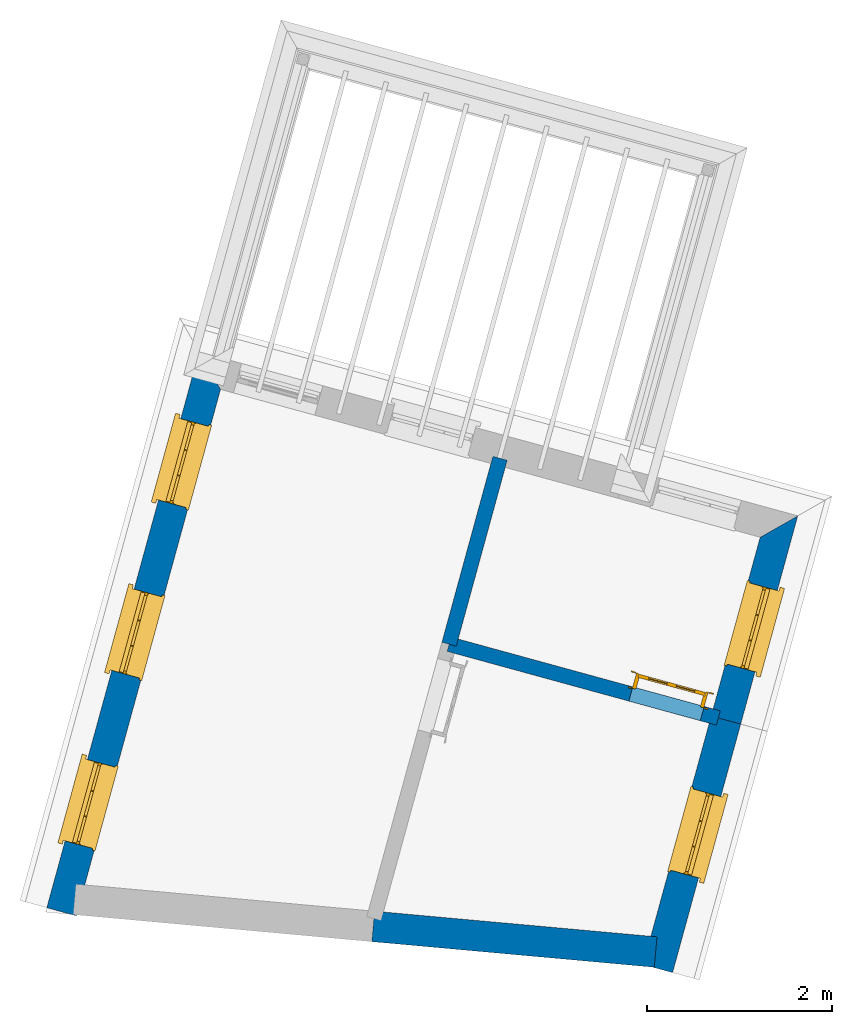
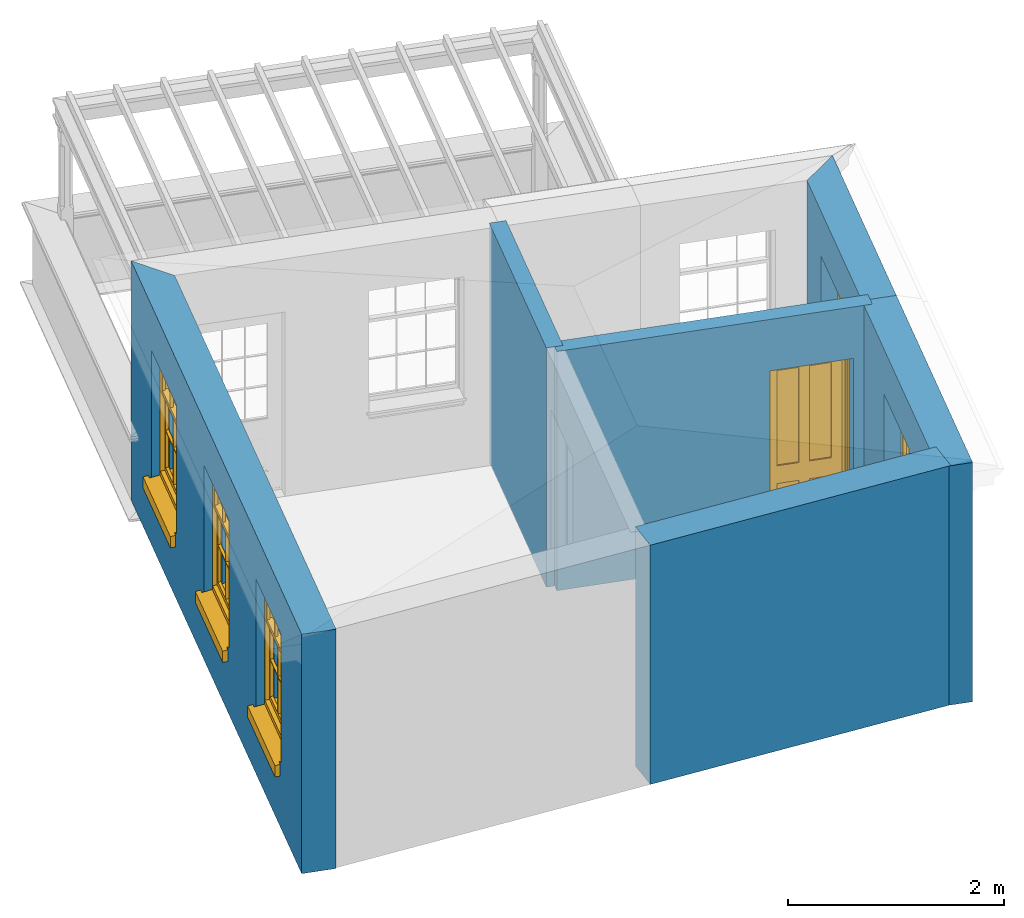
# One storey, part 2 of 4: 6 walls, 5 windows, 1 door, 6 openings.
"""IFC4 building model written with IfcOpenShell, lengths in metres."""

from ifc_helpers import new_model, si_unit, frame, origin, origin_with_axes, place, context, subcontext, project, spatial, polyline, outline, extrude, faceted_brep, source, transform, mapped, material, layer, layer_set, layer_usage, type_object, type_shapes, element, fill, save


model = new_model("IFC4")

# Units and contexts
model_context = context("Model", 3, world=origin_with_axes())
body_context = subcontext(model_context, "Body", "Model", "MODEL_VIEW")
ifc_project = project(units=[si_unit("PLANEANGLEUNIT", "RADIAN"), si_unit("MASSUNIT", "GRAM", prefix="KILO"), si_unit("FORCEUNIT", "NEWTON", prefix="KILO"), si_unit("LENGTHUNIT", "METRE"), si_unit("AREAUNIT", "SQUARE_METRE"), si_unit("VOLUMEUNIT", "CUBIC_METRE")], contexts=[model_context, model_context])

# Sites, building, storey
site_1_placement = place(None, origin_with_axes())
site_1 = spatial("IfcSite", under=ifc_project, at=site_1_placement, Name="Tamar")
site_2_placement = place(site_1_placement, origin_with_axes())
site_2 = spatial("IfcSite", under=site_1, at=site_2_placement, Name="Site plot-28", CompositionType="ELEMENT")
building_placement = place(None, origin_with_axes())
building = spatial("IfcBuilding", under=site_2, at=building_placement, Name="Building plot-28", CompositionType="ELEMENT")
storey_placement = place(None, frame((0.0, 0.0, 29.85), z_axis=(0.0, 0.0, 1.0), x_axis=(1.0, 0.0, 0.0)))
storey = spatial("IfcBuildingStorey", under=building, at=storey_placement, Name="plot-28 2", CompositionType="ELEMENT", Elevation=29.85)

# Wall, opening, window
ifc_material_1 = material(Name="Masonry")
ifc_layer_1 = layer(ifc_material_1, 0.33, ventilated=False)
ifc_layer_set_1 = layer_set([ifc_layer_1], Name="exterior_0.08_0.25")
ifc_layer_usage_1 = layer_usage(ifc_layer_set_1, "AXIS2", "POSITIVE", -0.25)
wall_type_1 = type_object("IfcWallType", Name="exterior_0.08_0.25", PredefinedType="SOLIDWALL", material=ifc_layer_set_1)
wall_1_placement = place(storey_placement, frame((265.361027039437, 259.109868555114, 0.0), z_axis=(0.0, 0.0, 1.0), x_axis=(0.264255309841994, 0.964452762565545, 0.0)))
wall_1 = element("IfcWall", 1, at=wall_1_placement, inside=storey, type_object=wall_type_1, material=ifc_layer_usage_1, Name="exterior", context=body_context, shape_type="SweptSolid", body=[
    extrude(outline(polyline([(-0.250000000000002, 0.0799999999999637), (-0.24999999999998, -0.250000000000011), (2.53220610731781, -0.249999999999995), (2.53220610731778, 0.0799999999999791), (-0.250000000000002, 0.0799999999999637)])), origin_with_axes(), (0.0, 0.0, 1.0), 2.7),
])
opening_1_placement = place(wall_1_placement, frame((0.811103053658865, 0.0, 0.75)))
opening_1 = element("IfcOpeningElement", 2, at=opening_1_placement, cuts=wall_1, Name="My Opening", ObjectType="Opening", context=body_context, shape_type="SweptSolid", body=[
    extrude(outline(polyline([(0.0, -0.270000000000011), (0.910000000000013, -0.269999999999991), (0.910000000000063, 1.09999999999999), (4.91828799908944e-14, 1.09999999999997), (0.0, -0.270000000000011)])), origin_with_axes(), (0.0, 0.0, 1.0), 1.445),
])
window_type = type_object("IfcWindowType", Name="sash_shorter", PartitioningType="DOUBLE_PANEL_HORIZONTAL", PredefinedType="NOTDEFINED")
shared_shape_1 = source(origin(), body_context, "Body", "Brep", [
    faceted_brep([(0.876875, 0.145, 0.999097), (0.876875, 0.145, 1.411875), (0.9, 0.145, 1.435), (0.033125, 0.145, 1.411875), (0.033125, 0.145, 0.999097), (0.01, 0.145, 1.435), (0.033125, 0.115, 1.411875), (0.01, 0.115, 1.435), (0.033125, 0.115, 0.999097), (0.876875, 0.115, 1.411875), (0.876875, 0.115, 0.999097), (0.9, 0.115, 1.435), (0.033125, 0.145, 0.960972), (0.01, 0.145, 0.960972), (0.033125, 0.145, 0.548195), (0.876875, 0.145, 0.960972), (0.876875, 0.145, 0.548195), (0.9, 0.145, 0.960972), (0.876875, 0.145, 0.538195), (0.876875, 0.145, 0.125417), (0.9, 0.145, 0.077167), (0.033125, 0.145, 0.125417), (0.033125, 0.145, 0.538195), (0.01, 0.145, 0.077167), (0.9, 0.115, 0.960972), (0.01, 0.115, 0.960972), (-0.0425, 0.0, 0.01), (-0.0425, -0.05, 0.001667), (0.0, 0.0, 0.01), (0.9525, 0.0, 0.01), (0.91, 0.0, 0.01), (0.9525, -0.05, 0.001667), (-0.02, 0.33, 0.077167), (0.0, 0.33, 0.077167), (-0.02, 0.36, 0.077167), (0.0, 0.19, 0.077167), (0.01, 0.19, 0.077167), (0.91, 0.19, 0.077167), (0.91, 0.33, 0.077167), (0.9, 0.19, 0.077167), (0.93, 0.33, 0.077167), (0.93, 0.36, 0.077167), (0.01, 0.145, 0.999097), (0.01, 0.175, 0.999097), (0.9, 0.145, 0.999097), (0.9, 0.175, 0.999097), (0.876875, 0.175, 0.125417), (0.876875, 0.175, 0.538195), (0.9, 0.175, 0.077167), (0.876875, 0.175, 0.548195), (0.876875, 0.175, 0.960972), (0.033125, 0.175, 0.125417), (0.01, 0.175, 0.077167), (0.033125, 0.175, 0.538195), (0.033125, 0.175, 0.960972), (0.033125, 0.175, 0.548195), (-0.02, 0.33, 0.052167), (-0.02, 0.36, 0.052167), (0.93, 0.36, 0.052167), (0.93, 0.33, 0.052167), (0.91, 0.33, 0.052167), (0.0, 0.33, 0.052167), (0.91, 0.1, 0.026667), (0.0, 0.1, 0.026667), (-0.0425, -0.05, -0.123333), (0.9525, -0.05, -0.123333), (-0.0425, 0.0, -0.123333), (0.9525, 0.0, -0.123333), (0.01, 0.19, 1.435), (0.9, 0.19, 1.435), (0.0, 0.19, 1.445), (0.91, 0.19, 1.445), (0.01, 0.1, 0.077167), (0.9, 0.1, 0.077167), (0.592292, 0.145, 0.125417), (0.592292, 0.175, 0.125417), (0.317708, 0.175, 0.125417), (0.317708, 0.145, 0.125417), (0.592292, 0.145, 0.548195), (0.317708, 0.145, 0.548195), (0.317708, 0.145, 0.538195), (0.592292, 0.145, 0.538195), (0.592292, 0.175, 0.548195), (0.317708, 0.175, 0.548195), (0.602292, 0.175, 0.548195), (0.602292, 0.145, 0.548195), (0.317708, 0.175, 0.538195), (0.307708, 0.175, 0.125417), (0.307708, 0.175, 0.538195), (0.602292, 0.175, 0.538195), (0.602292, 0.175, 0.125417), (0.592292, 0.175, 0.538195), (0.307708, 0.175, 0.548195), (0.317708, 0.175, 0.960972), (0.307708, 0.175, 0.960972), (0.602292, 0.175, 0.960972), (0.592292, 0.175, 0.960972), (0.307708, 0.145, 0.538195), (0.307708, 0.145, 0.125417), (0.307708, 0.145, 0.548195), (0.307708, 0.145, 0.960972), (0.592292, 0.145, 0.960972), (0.317708, 0.145, 0.960972), (0.602292, 0.145, 0.960972), (0.602292, 0.145, 0.538195), (0.602292, 0.145, 0.125417), (0.317708, 0.115, 1.411875), (0.307708, 0.115, 1.411875), (0.307708, 0.115, 0.999097), (0.317708, 0.115, 0.999097), (0.602292, 0.115, 1.411875), (0.592292, 0.115, 1.411875), (0.592292, 0.115, 0.999097), (0.602292, 0.115, 0.999097), (0.317708, 0.145, 0.999097), (0.307708, 0.145, 0.999097), (0.307708, 0.145, 1.411875), (0.317708, 0.145, 1.411875), (0.602292, 0.145, 0.999097), (0.592292, 0.145, 0.999097), (0.592292, 0.145, 1.411875), (0.602292, 0.145, 1.411875), (0.91, 0.1, 1.445), (0.9, 0.1, 1.435), (0.01, 0.1, 1.435), (0.0, 0.1, 1.445), (0.91, 0.0, 0.0), (0.0, 0.0, 0.0), (0.91, 0.33, 0.0), (0.0, 0.33, 0.0)], [[[0, 1, 2]], [[3, 4, 5]], [[6, 7, 8]], [[9, 10, 11]], [[12, 13, 14]], [[15, 16, 17]], [[18, 19, 20]], [[21, 22, 23]], [[24, 15, 17]], [[13, 12, 25]], [[26, 27, 28]], [[29, 30, 31]], [[32, 33, 34]], [[35, 36, 33]], [[37, 38, 39]], [[40, 41, 38]], [[42, 4, 43]], [[44, 45, 0]], [[46, 47, 48]], [[49, 50, 45]], [[51, 52, 53]], [[54, 55, 43]], [[38, 33, 36, 39]], [[41, 34, 33, 38]], [[56, 32, 34, 57]], [[57, 34, 41, 58]], [[58, 41, 40, 59]], [[57, 58, 60, 61]], [[52, 48, 39, 36]], [[62, 63, 28, 30]], [[27, 31, 30, 28]], [[27, 64, 65, 31]], [[66, 67, 65, 64]], [[2, 5, 68, 69]], [[68, 70, 71, 69]], [[20, 23, 72, 73]], [[73, 72, 63, 62]], [[74, 75, 76, 77]], [[78, 79, 80, 81]], [[78, 82, 83, 79]], [[16, 49, 84, 85]], [[86, 76, 87, 88]], [[89, 90, 75, 91]], [[92, 88, 53, 55]], [[82, 91, 86, 83]], [[93, 83, 92, 94]], [[95, 84, 82, 96]], [[89, 84, 49, 47]], [[97, 88, 87, 98]], [[22, 53, 88, 97]], [[81, 91, 75, 74]], [[80, 86, 91, 81]], [[77, 76, 86, 80]], [[99, 92, 55, 14]], [[100, 94, 92, 99]], [[101, 96, 82, 78]], [[79, 83, 93, 102]], [[85, 84, 95, 103]], [[104, 89, 47, 18]], [[105, 90, 89, 104]], [[104, 18, 16, 85]], [[80, 97, 98, 77]], [[104, 81, 74, 105]], [[103, 101, 78, 85]], [[99, 14, 22, 97]], [[102, 100, 99, 79]], [[106, 107, 108, 109]], [[110, 111, 112, 113]], [[114, 115, 116, 117]], [[118, 119, 120, 121]], [[107, 116, 115, 108]], [[111, 120, 119, 112]], [[109, 114, 117, 106]], [[113, 118, 121, 110]], [[85, 78, 81, 104]], [[84, 89, 91, 82]], [[83, 86, 88, 92]], [[79, 99, 97, 80]], [[109, 112, 119, 114]], [[102, 93, 96, 101]], [[106, 117, 120, 111]], [[98, 87, 51, 21]], [[6, 3, 116, 107]], [[110, 121, 1, 9]], [[19, 46, 90, 105]], [[26, 66, 64, 27]], [[29, 31, 65, 67]], [[25, 24, 112, 109]], [[11, 7, 106, 111]], [[75, 48, 52, 76]], [[43, 45, 96, 93]], [[45, 43, 114, 119]], [[5, 2, 120, 117]], [[24, 25, 102, 101]], [[42, 5, 4]], [[2, 44, 0]], [[49, 45, 48, 47]], [[52, 43, 55, 53]], [[14, 13, 23, 22]], [[20, 17, 16, 18]], [[24, 11, 10]], [[25, 8, 7]], [[8, 4, 3, 6]], [[9, 1, 0, 10]], [[15, 50, 49, 16]], [[18, 47, 46, 19]], [[21, 51, 53, 22]], [[14, 55, 54, 12]], [[44, 2, 69, 45]], [[68, 5, 42, 43]], [[36, 35, 70, 68]], [[39, 69, 71, 37]], [[62, 122, 123, 73]], [[63, 72, 124, 125]], [[8, 108, 115, 4]], [[113, 10, 0, 118]], [[94, 100, 12, 54]], [[17, 20, 73, 24]], [[72, 23, 13, 25]], [[52, 36, 68, 43]], [[69, 39, 48, 45]], [[11, 24, 73, 123]], [[7, 124, 72, 25]], [[23, 77, 98]], [[98, 21, 23]], [[105, 74, 20]], [[20, 19, 105]], [[20, 74, 77, 23]], [[113, 112, 24]], [[24, 10, 113]], [[25, 109, 108]], [[108, 8, 25]], [[110, 9, 11]], [[11, 111, 110]], [[7, 6, 107]], [[107, 106, 7]], [[5, 117, 116]], [[116, 3, 5]], [[121, 120, 2]], [[2, 1, 121]], [[11, 123, 124, 7]], [[122, 125, 124, 123]], [[43, 93, 94]], [[94, 54, 43]], [[96, 45, 95]], [[50, 95, 45]], [[15, 103, 95, 50]], [[48, 75, 90]], [[90, 46, 48]], [[87, 76, 52]], [[52, 51, 87]], [[103, 15, 24]], [[24, 101, 103]], [[100, 102, 25]], [[25, 12, 100]], [[115, 114, 43]], [[43, 4, 115]], [[118, 0, 45]], [[45, 119, 118]], [[71, 70, 125, 122]], [[70, 35, 63, 125]], [[122, 62, 37, 71]], [[126, 67, 66, 127]], [[60, 58, 59]], [[38, 60, 59, 40]], [[61, 56, 57]], [[32, 56, 61, 33]], [[61, 60, 128, 129]], [[62, 60, 38, 37]], [[126, 128, 60, 62]], [[33, 61, 63, 35]], [[61, 129, 127, 63]], [[128, 126, 127, 129]], [[28, 127, 66, 26]], [[63, 127, 28]], [[29, 67, 126, 30]], [[30, 126, 62]]]),
])
type_shapes(window_type, [shared_shape_1])
window_1_placement = place(storey_placement, frame((265.835767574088, 259.820790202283, 0.75), z_axis=(0.0, 0.0, 1.0), x_axis=(0.240472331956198, 0.877652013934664, 0.0)))
window_1 = element("IfcWindow", 3, at=window_1_placement, inside=storey, type_object=window_type, Name="circulation outside window", OverallHeight=1.445, OverallWidth=0.91, context=body_context, shape_type="MappedRepresentation", body=[
    mapped(shared_shape_1, transform((0.0, 0.0, 0.0), scale=1.0)),
])
fill(opening_1, window_1)

wall_2_placement = place(storey_placement, frame((266.03017594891, 261.552061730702, 0.0), z_axis=(0.0, 0.0, 1.0), x_axis=(0.26425530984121, 0.96445276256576, 0.0)))
wall_2 = element("IfcWall", 4, at=wall_2_placement, inside=storey, type_object=wall_type_1, material=ifc_layer_usage_1, Name="exterior", context=body_context, shape_type="SweptSolid", body=[
    extrude(outline(polyline([(5.82694029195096e-14, 0.0799999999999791), (-1.87556871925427e-13, -0.249999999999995), (2.33108839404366, -0.250000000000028), (2.00108839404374, 0.0800000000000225), (5.82694029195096e-14, 0.0799999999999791)])), origin_with_axes(), (0.0, 0.0, 1.0), 2.7),
])
opening_2_placement = place(wall_2_placement, frame((0.58554419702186, 0.0, 0.75)))
opening_2 = element("IfcOpeningElement", 5, at=opening_2_placement, cuts=wall_2, Name="My Opening", ObjectType="Opening", context=body_context, shape_type="SweptSolid", body=[
    extrude(outline(polyline([(0.0, -0.270000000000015), (0.909999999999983, -0.269999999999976), (0.909999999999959, 1.10000000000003), (-2.37587727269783e-14, 1.09999999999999), (0.0, -0.270000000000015)])), origin_with_axes(), (0.0, 0.0, 1.0), 1.445),
])
window_2_placement = place(storey_placement, frame((266.445311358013, 262.045442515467, 0.75), z_axis=(0.0, 0.0, 1.0), x_axis=(0.240472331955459, 0.877652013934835, 0.0)))
window_2 = element("IfcWindow", 6, at=window_2_placement, inside=storey, type_object=window_type, Name="toilet outside window", OverallHeight=1.445, OverallWidth=0.91, context=body_context, shape_type="MappedRepresentation", body=[
    mapped(shared_shape_1, transform((0.0, 0.0, 0.0), scale=1.0)),
])
fill(opening_2, window_2)

# Wall, openings, windows
wall_3_placement = place(storey_placement, frame((260.599846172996, 265.197737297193, 0.0), z_axis=(0.0, 0.0, 1.0), x_axis=(-0.264255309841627, -0.964452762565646, 0.0)))
wall_3 = element("IfcWall", 7, at=wall_3_placement, inside=storey, type_object=wall_type_1, material=ifc_layer_usage_1, Name="exterior", context=body_context, shape_type="SweptSolid", body=[
    extrude(outline(polyline([(0.0800000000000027, 0.0799999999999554), (-0.250000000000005, -0.249999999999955), (5.97279719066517, -0.250000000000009), (5.97279719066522, 0.0799999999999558), (0.0800000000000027, 0.0799999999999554)])), origin_with_axes(), (0.0, 0.0, 1.0), 2.7),
])
opening_3_placement = place(wall_3_placement, frame((0.498799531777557, 0.0, 0.75)))
opening_3 = element("IfcOpeningElement", 8, at=opening_3_placement, cuts=wall_3, Name="My Opening", ObjectType="Opening", context=body_context, shape_type="SweptSolid", body=[
    extrude(outline(polyline([(0.0, -0.270000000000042), (0.909999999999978, -0.270000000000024), (0.909999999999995, 1.10000000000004), (1.62092561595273e-14, 1.10000000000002), (0.0, -0.270000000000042)])), origin_with_axes(), (0.0, 0.0, 1.0), 1.445),
])
opening_4_placement = place(wall_3_placement, frame((2.40639859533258, 0.0, 0.75)))
opening_4 = element("IfcOpeningElement", 9, at=opening_4_placement, cuts=wall_3, Name="My Opening", ObjectType="Opening", context=body_context, shape_type="SweptSolid", body=[
    extrude(outline(polyline([(0.0, -0.270000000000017), (0.910000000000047, -0.270000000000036), (0.910000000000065, 1.10000000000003), (1.59872115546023e-14, 1.10000000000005), (0.0, -0.270000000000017)])), origin_with_axes(), (0.0, 0.0, 1.0), 1.445),
])
opening_5_placement = place(wall_3_placement, frame((4.31399765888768, 0.0, 0.75)))
opening_5 = element("IfcOpeningElement", 10, at=opening_5_placement, cuts=wall_3, Name="My Opening", ObjectType="Opening", context=body_context, shape_type="SweptSolid", body=[
    extrude(outline(polyline([(0.0, -0.270000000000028), (0.909999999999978, -0.270000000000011), (0.909999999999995, 1.10000000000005), (1.68753899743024e-14, 1.10000000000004), (0.0, -0.270000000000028)])), origin_with_axes(), (0.0, 0.0, 1.0), 1.445),
])
window_3_placement = place(storey_placement, frame((260.207633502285, 264.788017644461, 0.75), z_axis=(0.0, 0.0, 1.0), x_axis=(-0.240472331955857, -0.877652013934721, 0.0)))
window_3 = element("IfcWindow", 11, at=window_3_placement, inside=storey, type_object=window_type, Name="bedroom outside window", OverallHeight=1.445, OverallWidth=0.91, context=body_context, shape_type="MappedRepresentation", body=[
    mapped(shared_shape_1, transform((0.0, 0.0, 0.0), scale=1.0)),
])
fill(opening_3, window_3)
window_4_placement = place(storey_placement, frame((259.703540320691, 262.948228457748, 0.75), z_axis=(0.0, 0.0, 1.0), x_axis=(-0.240472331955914, -0.877652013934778, 0.0)))
window_4 = element("IfcWindow", 12, at=window_4_placement, inside=storey, type_object=window_type, Name="bedroom outside window", OverallHeight=1.445, OverallWidth=0.91, context=body_context, shape_type="MappedRepresentation", body=[
    mapped(shared_shape_1, transform((0.0, 0.0, 0.0), scale=1.0)),
])
fill(opening_4, window_4)
window_5_placement = place(storey_placement, frame((259.199447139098, 261.108439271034, 0.75), z_axis=(0.0, 0.0, 1.0), x_axis=(-0.240472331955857, -0.877652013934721, 0.0)))
window_5 = element("IfcWindow", 13, at=window_5_placement, inside=storey, type_object=window_type, Name="bedroom outside window", OverallHeight=1.445, OverallWidth=0.91, context=body_context, shape_type="MappedRepresentation", body=[
    mapped(shared_shape_1, transform((0.0, 0.0, 0.0), scale=1.0)),
])
fill(opening_5, window_5)

# Walls
ifc_material_2 = material(Name="Masonry")
ifc_layer_2 = layer(ifc_material_2, 0.33, ventilated=False)
ifc_layer_set_2 = layer_set([ifc_layer_2], Name="party_0.08_0.25")
ifc_layer_usage_2 = layer_usage(ifc_layer_set_2, "AXIS2", "POSITIVE", -0.25)
wall_type_2 = type_object("IfcWallType", Name="party_0.08_0.25", PredefinedType="SOLIDWALL", material=ifc_layer_set_2)
wall_4_placement = place(storey_placement, frame((262.311682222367, 259.386200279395, 0.0), z_axis=(0.0, 0.0, 1.0), x_axis=(0.995919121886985, -0.0902502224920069, 0.0)))
element("IfcWall", 14, at=wall_4_placement, inside=storey, type_object=wall_type_2, material=ifc_layer_usage_2, Name="party", context=body_context, shape_type="SweptSolid", body=[
    extrude(outline(polyline([(3.79656442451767e-14, 0.0799999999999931), (-9.35267029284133e-14, -0.250000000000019), (3.06183981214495, -0.250000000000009), (3.06183981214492, 0.079999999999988), (3.79656442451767e-14, 0.0799999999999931)])), origin_with_axes(), (0.0, 0.0, 1.0), 2.7),
])
ifc_material_3 = material(Name="Masonry")
ifc_layer_3 = layer(ifc_material_3, 0.16, ventilated=False)
ifc_layer_set_3 = layer_set([ifc_layer_3], Name="interior_0.08_0.08")
ifc_layer_usage_3 = layer_usage(ifc_layer_set_3, "AXIS2", "POSITIVE", -0.08)
wall_type_3 = type_object("IfcWallType", Name="interior_0.08_0.08", PredefinedType="SOLIDWALL", material=ifc_layer_set_3)
wall_5_placement = place(storey_placement, frame((263.123343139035, 262.348519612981, 0.0), z_axis=(0.0, 0.0, 1.0), x_axis=(0.264255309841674, 0.964452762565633, 0.0)))
element("IfcWall", 15, at=wall_5_placement, inside=storey, type_object=wall_type_3, material=ifc_layer_usage_3, Name="interior", context=body_context, shape_type="SweptSolid", body=[
    extrude(outline(polyline([(1.97579866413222e-14, 0.0799999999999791), (-1.9748189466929e-14, -0.0799999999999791), (2.08108839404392, -0.0799999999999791), (2.08108839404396, 0.0799999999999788), (1.97579866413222e-14, 0.0799999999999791)])), origin_with_axes(), (0.0, 0.0, 1.0), 2.7),
])

# Wall, opening, door
wall_6_placement = place(storey_placement, frame((263.123343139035, 262.348519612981, 0.0), z_axis=(0.0, 0.0, 1.0), x_axis=(0.964452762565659, -0.264255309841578, 0.0)))
wall_6 = element("IfcWall", 16, at=wall_6_placement, inside=storey, type_object=wall_type_3, material=ifc_layer_usage_3, Name="interior", context=body_context, shape_type="SweptSolid", body=[
    extrude(outline(polyline([(2.77338288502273e-14, 0.0799999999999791), (-2.77258624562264e-14, -0.0799999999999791), (3.01397115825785, -0.0799999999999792), (3.0139711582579, 0.079999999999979), (2.77338288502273e-14, 0.0799999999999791)])), origin_with_axes(), (0.0, 0.0, 1.0), 2.7),
])
opening_6_placement = place(wall_6_placement, frame((2.03397115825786, 0.0, 0.0199999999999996)))
opening_6 = element("IfcOpeningElement", 17, at=opening_6_placement, cuts=wall_6, Name="My Opening", ObjectType="Opening", context=body_context, shape_type="SweptSolid", body=[
    extrude(outline(polyline([(0.0, -0.100000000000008), (0.80000000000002, -0.100000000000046), (0.800000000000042, 1.1), (2.1316282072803e-14, 1.10000000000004), (0.0, -0.100000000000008)])), origin_with_axes(), (0.0, 0.0, 1.0), 2.1),
])
door_type = type_object("IfcDoorType", Name="door_inside", OperationType="SINGLE_SWING_LEFT", PredefinedType="NOTDEFINED")
shared_shape_2 = source(origin(), body_context, "Body", "Brep", [
    faceted_brep([(0.773, 0.33, 1.895), (0.66, 0.33, 1.895), (0.66, 0.33, 2.073), (0.773, 0.33, 2.073), (0.773, 0.33, 0.82), (0.66, 0.33, 0.82), (0.45, 0.33, 1.895), (0.45, 0.33, 2.073), (0.773, 0.33, 0.62), (0.66, 0.33, 0.62), (0.66, 0.315, 0.82), (0.66, 0.315, 1.895), (0.45, 0.315, 1.895), (0.35, 0.33, 1.895), (0.35, 0.33, 2.073), (0.773, 0.33, 0.225), (0.66, 0.33, 0.225), (0.45, 0.33, 0.62), (0.45, 0.33, 0.82), (0.45, 0.315, 0.82), (0.35, 0.33, 0.82), (0.14, 0.33, 2.073), (0.14, 0.33, 1.895), (0.773, 0.33, 0.0), (0.66, 0.33, 0.0), (0.66, 0.315, 0.225), (0.66, 0.315, 0.62), (0.45, 0.315, 0.62), (0.35, 0.33, 0.62), (0.35, 0.315, 0.82), (0.35, 0.315, 1.895), (0.14, 0.315, 1.895), (0.027, 0.33, 2.073), (0.027, 0.33, 1.895), (0.773, 0.292, 0.0), (0.66, 0.292, 0.0), (0.45, 0.33, 0.0), (0.45, 0.33, 0.225), (0.45, 0.315, 0.225), (0.35, 0.33, 0.225), (0.14, 0.33, 0.82), (0.14, 0.33, 0.62), (0.14, 0.315, 0.82), (0.027, 0.33, 0.82), (0.773, 0.292, 0.225), (0.66, 0.292, 0.225), (0.45, 0.292, 0.0), (0.35, 0.33, 0.0), (0.35, 0.315, 0.225), (0.35, 0.315, 0.62), (0.14, 0.315, 0.62), (0.027, 0.33, 0.62), (0.773, 0.292, 0.62), (0.66, 0.292, 0.62), (0.45, 0.292, 0.225), (0.35, 0.292, 0.0), (0.14, 0.33, 0.225), (0.14, 0.33, 0.0), (0.14, 0.315, 0.225), (0.027, 0.33, 0.225), (0.773, 0.292, 0.82), (0.66, 0.292, 0.82), (0.66, 0.307, 0.62), (0.66, 0.307, 0.225), (0.45, 0.307, 0.225), (0.35, 0.292, 0.225), (0.14, 0.292, 0.0), (0.027, 0.33, 0.0), (0.773, 0.292, 1.895), (0.66, 0.292, 1.895), (0.45, 0.292, 0.62), (0.45, 0.292, 0.82), (0.45, 0.307, 0.62), (0.35, 0.292, 0.62), (0.14, 0.292, 0.225), (0.027, 0.292, 0.0), (0.773, 0.292, 2.073), (0.66, 0.292, 2.073), (0.66, 0.307, 1.895), (0.66, 0.307, 0.82), (0.45, 0.307, 0.82), (0.35, 0.292, 0.82), (0.35, 0.307, 0.62), (0.35, 0.307, 0.225), (0.14, 0.307, 0.225), (0.027, 0.292, 0.225), (0.45, 0.292, 1.895), (0.45, 0.292, 2.073), (0.45, 0.307, 1.895), (0.35, 0.292, 1.895), (0.14, 0.292, 0.82), (0.14, 0.292, 0.62), (0.14, 0.307, 0.62), (0.027, 0.292, 0.62), (0.35, 0.292, 2.073), (0.35, 0.307, 1.895), (0.35, 0.307, 0.82), (0.14, 0.307, 0.82), (0.027, 0.292, 0.82), (0.14, 0.292, 2.073), (0.14, 0.292, 1.895), (0.14, 0.307, 1.895), (0.027, 0.292, 1.895), (0.027, 0.292, 2.073), (0.02, 0.335, 0.0), (0.005, 0.34, 0.0), (0.005, 0.34, 2.095), (0.02, 0.335, 2.08), (0.02, 0.33, 0.0), (0.0, 0.335, 0.0), (0.0, 0.335, 2.1), (0.795, 0.34, 2.095), (0.78, 0.335, 2.08), (0.02, 0.33, 2.08), (0.0, 0.33, 0.0), (-0.032, 0.345, 0.0), (-0.032, 0.345, 2.132), (0.8, 0.335, 2.1), (0.795, 0.34, 0.0), (0.78, 0.335, 0.0), (0.78, 0.33, 2.08), (0.04, 0.29, 0.0), (0.025, 0.29, 0.0), (0.025, 0.29, 2.075), (0.04, 0.29, 2.06), (-0.04, 0.34, 0.0), (-0.04, 0.34, 2.14), (0.832, 0.345, 2.132), (0.8, 0.335, 0.0), (0.78, 0.33, 0.0), (0.8, 0.33, 0.0), (0.86, 0.33, 0.0), (0.86, 0.33, 2.16), (0.8, 0.33, 2.1), (-0.06, 0.33, 2.16), (0.0, 0.33, 2.1), (-0.06, 0.33, 0.0), (-0.04, 0.345, 0.0), (-0.04, 0.345, 2.14), (0.84, 0.34, 2.14), (0.832, 0.345, 0.0), (0.84, 0.34, 0.0), (0.86, 0.345, 0.0), (0.86, 0.345, 2.16), (-0.06, 0.345, 2.16), (-0.06, 0.345, 0.0), (0.84, 0.345, 0.0), (0.84, 0.345, 2.14), (-0.025, 0.155, 0.0), (-0.025, 0.16, 0.0), (-0.025, 0.16, 2.125), (-0.025, 0.155, 2.125), (-0.017, 0.155, 0.0), (-0.017, 0.155, 2.117), (0.825, 0.16, 2.125), (0.825, 0.155, 2.125), (0.825, 0.155, 0.0), (0.845, 0.155, 0.0), (-0.045, 0.155, 2.145), (-0.045, 0.155, 0.0), (0.845, 0.155, 2.145), (0.015, 0.165, 0.0), (0.015, 0.165, 2.085), (0.817, 0.155, 2.117), (0.825, 0.16, 0.0), (0.845, 0.17, 0.0), (0.845, 0.17, 2.145), (-0.045, 0.17, 2.145), (-0.045, 0.17, 0.0), (0.02, 0.16, 0.0), (0.02, 0.16, 2.08), (0.785, 0.165, 2.085), (0.817, 0.155, 0.0), (0.8, 0.17, 0.0), (0.8, 0.17, 2.1), (0.0, 0.17, 2.1), (0.0, 0.17, 0.0), (0.035, 0.165, 0.0), (0.035, 0.165, 2.065), (0.78, 0.16, 2.08), (0.785, 0.165, 0.0), (0.775, 0.29, 2.075), (0.76, 0.29, 2.06), (0.035, 0.17, 2.065), (0.035, 0.17, 0.0), (0.765, 0.165, 2.065), (0.78, 0.16, 0.0), (0.765, 0.17, 0.0), (0.765, 0.17, 2.065), (0.765, 0.165, 0.0), (0.04, 0.17, 2.06), (0.04, 0.17, 0.0), (0.76, 0.17, 2.06), (0.76, 0.17, 0.0), (0.76, 0.29, 0.0), (0.775, 0.29, 0.0), (0.025, 0.33, 0.0), (0.025, 0.33, 2.075), (0.775, 0.33, 0.0), (0.775, 0.33, 2.075)], [[[0, 1, 2, 3]], [[1, 0, 4, 5]], [[1, 6, 7, 2]], [[8, 9, 5, 4]], [[1, 5, 10, 11]], [[6, 1, 11, 12]], [[6, 13, 14, 7]], [[15, 16, 9, 8]], [[9, 17, 18, 5]], [[5, 18, 19, 10]], [[10, 19, 12, 11]], [[18, 6, 12, 19]], [[18, 20, 13, 6]], [[21, 14, 13, 22]], [[23, 24, 16, 15]], [[9, 16, 25, 26]], [[17, 9, 26, 27]], [[17, 28, 20, 18]], [[13, 20, 29, 30]], [[22, 13, 30, 31]], [[32, 21, 22, 33]], [[34, 35, 24, 23]], [[24, 36, 37, 16]], [[16, 37, 38, 25]], [[25, 38, 27, 26]], [[37, 17, 27, 38]], [[37, 39, 28, 17]], [[40, 20, 28, 41]], [[20, 40, 42, 29]], [[31, 30, 29, 42]], [[40, 22, 31, 42]], [[33, 22, 40, 43]], [[35, 34, 44, 45]], [[35, 46, 36, 24]], [[36, 47, 39, 37]], [[28, 39, 48, 49]], [[41, 28, 49, 50]], [[43, 40, 41, 51]], [[45, 44, 52, 53]], [[46, 35, 45, 54]], [[46, 55, 47, 36]], [[56, 39, 47, 57]], [[39, 56, 58, 48]], [[50, 49, 48, 58]], [[56, 41, 50, 58]], [[51, 41, 56, 59]], [[53, 52, 60, 61]], [[45, 53, 62, 63]], [[54, 45, 63, 64]], [[55, 46, 54, 65]], [[55, 66, 57, 47]], [[59, 56, 57, 67]], [[61, 60, 68, 69]], [[70, 53, 61, 71]], [[53, 70, 72, 62]], [[72, 64, 63, 62]], [[70, 54, 64, 72]], [[65, 54, 70, 73]], [[65, 74, 66, 55]], [[67, 57, 66, 75]], [[69, 68, 76, 77]], [[61, 69, 78, 79]], [[71, 61, 79, 80]], [[73, 70, 71, 81]], [[65, 73, 82, 83]], [[74, 65, 83, 84]], [[74, 85, 75, 66]], [[86, 69, 77, 87]], [[69, 86, 88, 78]], [[88, 80, 79, 78]], [[86, 71, 80, 88]], [[81, 71, 86, 89]], [[73, 81, 90, 91]], [[73, 91, 92, 82]], [[83, 82, 92, 84]], [[91, 74, 84, 92]], [[91, 93, 85, 74]], [[89, 86, 87, 94]], [[81, 89, 95, 96]], [[90, 81, 96, 97]], [[90, 98, 93, 91]], [[94, 99, 100, 89]], [[89, 100, 101, 95]], [[101, 97, 96, 95]], [[100, 90, 97, 101]], [[100, 102, 98, 90]], [[99, 103, 102, 100]], [[32, 103, 99, 21]], [[102, 103, 32, 33]], [[98, 102, 33, 43]], [[21, 99, 94, 14]], [[94, 87, 7, 14]], [[7, 87, 77, 2]], [[76, 3, 2, 77]], [[43, 51, 93, 98]], [[51, 59, 85, 93]], [[67, 75, 85, 59]], [[34, 23, 15, 44]], [[44, 15, 8, 52]], [[52, 8, 4, 60]], [[0, 68, 60, 4]], [[0, 3, 76, 68]], [[104, 105, 106, 107]], [[104, 108, 109, 105]], [[105, 109, 110, 106]], [[107, 106, 111, 112]], [[107, 113, 108, 104]], [[114, 109, 108]], [[109, 115, 116, 110]], [[106, 110, 117, 111]], [[112, 111, 118, 119]], [[113, 107, 112, 120]], [[121, 122, 123, 124]], [[115, 109, 114, 125]], [[115, 125, 126, 116]], [[110, 116, 127, 117]], [[111, 117, 128, 118]], [[118, 128, 129, 119]], [[120, 112, 119, 129]], [[130, 129, 128]], [[130, 131, 132, 133]], [[133, 132, 134, 135]], [[135, 134, 136, 114]], [[136, 125, 114]], [[125, 137, 138, 126]], [[116, 126, 139, 127]], [[117, 127, 140, 128]], [[141, 130, 128, 140]], [[131, 130, 141]], [[131, 142, 143, 132]], [[132, 143, 144, 134]], [[134, 144, 145, 136]], [[137, 125, 136, 145]], [[143, 142, 146]], [[143, 146, 147]], [[137, 145, 144]], [[143, 147, 138]], [[138, 137, 144]], [[143, 138, 144]], [[126, 138, 147, 139]], [[127, 139, 141, 140]], [[142, 131, 141, 146]], [[139, 147, 146, 141]], [[148, 149, 150, 151]], [[149, 152, 153, 150]], [[151, 150, 154, 155]], [[155, 156, 157]], [[158, 159, 148]], [[158, 148, 151]], [[155, 157, 160]], [[158, 151, 155]], [[155, 160, 158]], [[152, 161, 162, 153]], [[150, 153, 163, 154]], [[155, 154, 164, 156]], [[156, 164, 165, 157]], [[157, 165, 166, 160]], [[160, 166, 167, 158]], [[158, 167, 168, 159]], [[161, 169, 170, 162]], [[153, 162, 171, 163]], [[154, 163, 172, 164]], [[165, 164, 173]], [[165, 173, 174, 166]], [[166, 174, 175, 167]], [[167, 175, 176, 168]], [[169, 177, 178, 170]], [[162, 170, 179, 171]], [[163, 171, 180, 172]], [[172, 180, 173, 164]], [[124, 123, 181, 182]], [[183, 178, 177, 184]], [[170, 178, 185, 179]], [[171, 179, 186, 180]], [[187, 173, 180]], [[185, 188, 187, 189]], [[188, 185, 178, 183]], [[179, 185, 189, 186]], [[189, 187, 180, 186]], [[190, 183, 184, 191]], [[192, 188, 183, 190]], [[191, 184, 122, 121]], [[124, 190, 191, 121]], [[193, 187, 188, 192]], [[182, 192, 190, 124]], [[184, 176, 122]], [[194, 195, 187, 193]], [[192, 182, 194, 193]], [[161, 176, 184]], [[114, 108, 122, 176]], [[173, 187, 195]], [[152, 149, 176, 161]], [[169, 161, 184, 177]], [[196, 122, 108]], [[176, 175, 135, 114]], [[173, 195, 129, 130]], [[176, 149, 168]], [[123, 122, 196, 197]], [[196, 108, 113, 197]], [[175, 174, 133, 135]], [[198, 129, 195]], [[133, 174, 173, 130]], [[159, 168, 149, 148]], [[181, 123, 197, 199]], [[197, 113, 120, 199]], [[199, 120, 129, 198]], [[195, 181, 199, 198]], [[195, 194, 182, 181]]]),
])
type_shapes(door_type, [shared_shape_2])
door_placement = place(storey_placement, frame((265.058586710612, 261.71458665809, 0.0199999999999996), z_axis=(0.0, 0.0, 1.0), x_axis=(0.771562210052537, -0.211404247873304, 0.0)))
door = element("IfcDoor", 18, at=door_placement, inside=storey, type_object=door_type, Name="toilet inside door", OverallHeight=2.1, OverallWidth=0.8, context=body_context, shape_type="MappedRepresentation", body=[
    mapped(shared_shape_2, transform((0.0, 0.0, 0.0), scale=1.0)),
])
fill(opening_6, door)

save(model, "model.ifc")
